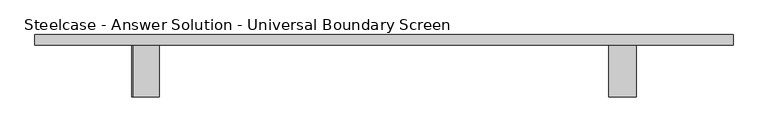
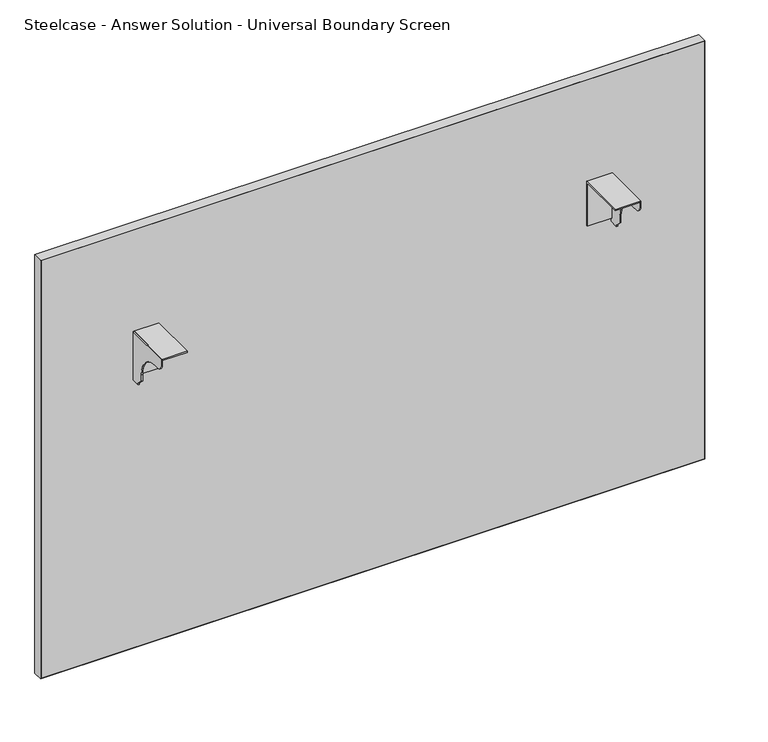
"""IFC4 building model written with IfcOpenShell, lengths in millimetres: furniture geometry, Steelcase - Answer Solution - Universal Boundary Screen : 36H x 54W."""

from ifc_helpers import new_model, si_unit, point, frame, frame_2d, origin, place, context, project, spatial, polyline, circle_curve, trimmed, segment, composite_curve, outline, extrude, source, transform, mapped, element, save


def steelcase_answer_solution_universal_boundary_screen_64256de7(model_context):
    return source(origin(), model_context, "Body", "SweptSolid", [
        extrude(outline(polyline([(-103.1670434, 689.3558876), (-103.1670434, 692.1499758), (-1.5668826, 692.1499758), (-1.5668826, 595.5029317), (-4.1079736, 595.5029317), (-4.1079736, 689.3558876), (-103.1670434, 689.3558876)])), frame((972.0336711, 0.0, 0.0), z_axis=(1.0, 0.0, 0.0), x_axis=(0.0, 1.0, 0.0)), (0.0, 0.0, 1.0), 53.3444116),
        extrude(outline(composite_curve([segment(polyline([(-103.1670434, 679.2814802), (-103.1670434, 692.1499758), (-1.5668826, 692.1499758), (-1.5668826, 586.9634093), (-19.8232934, 586.9634093), (-19.8232934, 589.7574248), (-32.0458032, 601.9799346), (-32.0458032, 615.7814802)]), True, "CONTINUOUS"), segment(trimmed(circle_curve(frame_2d((-82.8458032, 615.7814802)), 50.8), [point((-32.0458032, 615.7814802))], [point((-82.8458032, 666.5814802))], True, "CARTESIAN"), True, "CONTINUOUS"), segment(polyline([(-82.8458032, 666.5814802), (-90.4670434, 666.5814802)]), True, "CONTINUOUS"), segment(trimmed(circle_curve(frame_2d((-90.4670434, 679.2814802)), 12.7), [point((-90.4670434, 666.5814802))], [point((-103.1670434, 679.2814802))], False, "CARTESIAN"), True, "CONTINUOUS")], self_intersect=False)), frame((1022.8328959, 0.0, 0.0), z_axis=(1.0, 0.0, 0.0), x_axis=(0.0, 1.0, 0.0)), (0.0, 0.0, 1.0), 2.5451868),
        extrude(outline(polyline([(-103.1670434, 689.3558876), (-103.1670434, 692.1499758), (-1.5668826, 692.1499758), (-1.5668826, 595.5029317), (-4.1079736, 595.5029317), (-4.1079736, 689.3558876), (-103.1670434, 689.3558876)])), frame((37.3232694, 0.0, 0.0), z_axis=(1.0, 0.0, 0.0), x_axis=(0.0, 1.0, 0.0)), (0.0, 0.0, 1.0), 50.7992249),
        extrude(outline(composite_curve([segment(polyline([(-103.1670434, 679.2814802), (-103.1670434, 692.1499758), (-1.5668826, 692.1499758), (-1.5668826, 586.9634093), (-19.8232934, 586.9634093), (-19.8232934, 589.7574248), (-32.0458032, 601.9799346), (-32.0458032, 615.7814802)]), True, "CONTINUOUS"), segment(trimmed(circle_curve(frame_2d((-82.8458032, 615.7814802)), 50.8), [point((-32.0458032, 615.7814802))], [point((-82.8458032, 666.5814802))], True, "CARTESIAN"), True, "CONTINUOUS"), segment(polyline([(-82.8458032, 666.5814802), (-90.4670434, 666.5814802)]), True, "CONTINUOUS"), segment(trimmed(circle_curve(frame_2d((-90.4670434, 679.2814802)), 12.7), [point((-90.4670434, 666.5814802))], [point((-103.1670434, 679.2814802))], False, "CARTESIAN"), True, "CONTINUOUS")], self_intersect=False)), frame((34.7780827, 0.0, 0.0), z_axis=(1.0, 0.0, 0.0), x_axis=(0.0, 1.0, 0.0)), (0.0, 0.0, 1.0), 2.5451868),
        extrude(outline(polyline([(-154.7293422, 18.9055112), (1214.8855076, 18.9055112), (1214.8855076, -1.5668826), (-154.7293422, -1.5668826), (-154.7293422, 18.9055112)])), frame((0.0, 0.0, 1.016), z_axis=(0.0, 0.0, 1.0), x_axis=(1.0, 0.0, 0.0)), (0.0, 0.0, 1.0), 912.3914249),
        extrude(outline(polyline([(914.4, 1215.8780827), (914.4, -155.7219173), (0.0, -155.7219173), (0.0, 1215.8780827), (914.4, 1215.8780827)]), holes=[polyline([(913.4074249, 1214.8855076), (1.016, 1214.8855076), (1.016, -154.7293422), (913.4074249, -154.7293422), (913.4074249, 1214.8855076)])]), frame((0.0, -1.5668826, 0.0), z_axis=(0.0, 1.0, 0.0), x_axis=(0.0, 0.0, 1.0)), (0.0, 0.0, 1.0), 20.4723938),
    ])


if __name__ == "__main__":
    model = new_model("IFC4")
    model_context = context("Model", 3, world=origin())
    ifc_project = project(units=[si_unit("LENGTHUNIT", "METRE", prefix="MILLI")], contexts=[model_context])
    site = spatial("IfcSite", under=ifc_project)
    building = spatial("IfcBuilding", under=site)
    placement = place(None, origin())
    steelcase_answer_solution_universal_boundary_screen_shape = steelcase_answer_solution_universal_boundary_screen_64256de7(model_context)
    element("IfcFurniture", 1, ObjectType="Steelcase - Answer Solution - Universal Boundary Screen : 36H x 54W", at=placement, inside=building, context=model_context, shape_type="MappedRepresentation", body=[
        mapped(steelcase_answer_solution_universal_boundary_screen_shape, transform((0.0, 0.0, 0.0), x_axis=(1.0, 0.0, 0.0), y_axis=(0.0, 1.0, 0.0), z_axis=(0.0, 0.0, 1.0))),
    ])
    save(model, "model.ifc")
